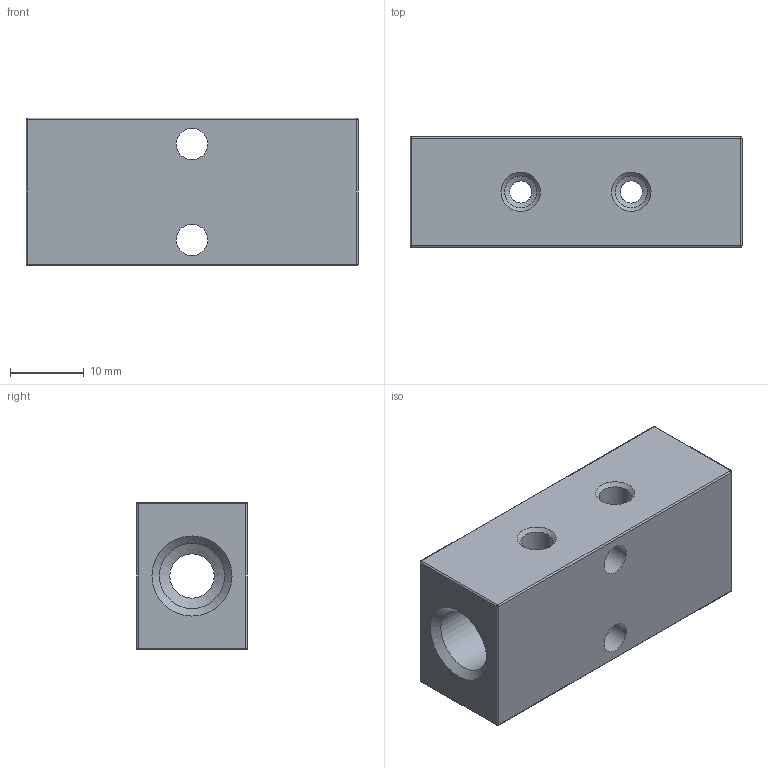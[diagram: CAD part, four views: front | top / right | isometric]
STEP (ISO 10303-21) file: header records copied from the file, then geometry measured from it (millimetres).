
FILE_DESCRIPTION(/* description */ (''),/* implementation_level */ '2;1');
FILE_NAME(/* name */ 'S:\_Tecnico\ArchivioUT\_Disegni3D ingombri\DISEGNI 3D per ingombri\RL\RL5218M522.stp',/* time_stamp */ '2020-02-20T11:19:58+01:00',/* author */ ('UfficioTecnico'),/* organization */ (''),/* preprocessor_version */ 'ST-DEVELOPER v18',/* originating_system */ 'Autodesk Inventor 2020',/* authorisation */ '');
FILE_SCHEMA (('AUTOMOTIVE_DESIGN { 1 0 10303 214 3 1 1 }'));
Length unit declared in the file: millimetre
Products named in the file (1): RL5118M502
Bounding box: 45 x 15 x 20 mm (x, y, z)
Volume: 10579.6 mm3; surface area: 5292 mm2
Topology: 1 solids, 1 shells, 51 faces, 121 edges, 72 vertices
Faces by surface type: cylinder 25, cone 12, sphere 8, plane 6
Full cylindrical faces by diameter (mm): 3 x4, 4.25 x2, 4.334 x4, 6 x1, 8.848 x2
Entity records: 1660 total; most frequent: CARTESIAN_POINT 381, DIRECTION 281, ORIENTED_EDGE 242, EDGE_CURVE 121, AXIS2_PLACEMENT_3D 116, VERTEX_POINT 72, EDGE_LOOP 65, CIRCLE 64
